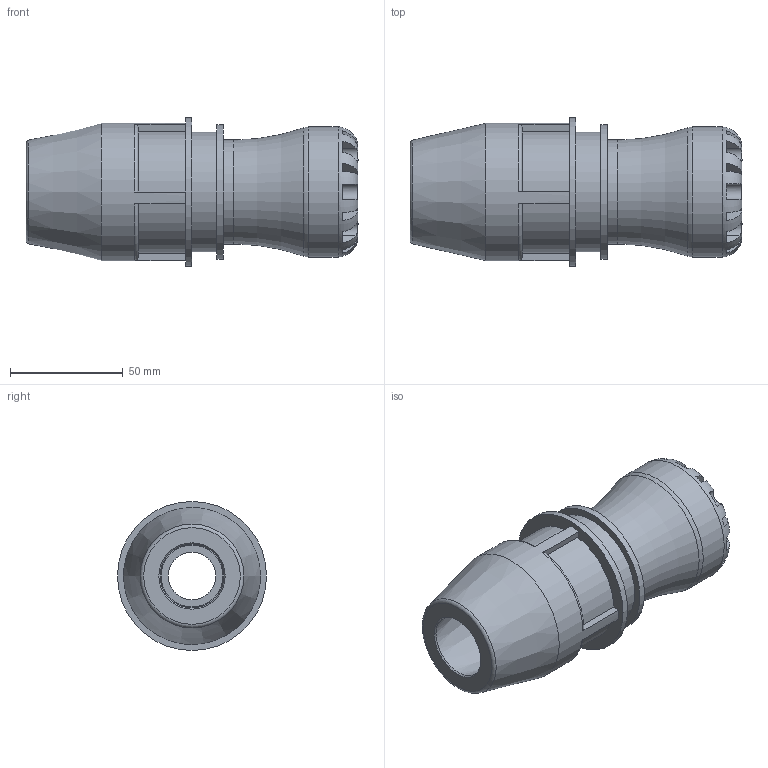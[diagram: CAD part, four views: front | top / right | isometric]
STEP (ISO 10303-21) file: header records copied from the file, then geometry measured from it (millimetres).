
FILE_DESCRIPTION(/* description */ ('PLASSON UNIVERSAL COUPLING 24-28X32 SERIES 1'),/* implementation_level */ '2;1');
FILE_NAME(/* name */ 'C:\Dropbox\KIMPROJECTS-Inventor 2019\99-16-3568-Processing\S1\10017\stp\100170032028.stp',/* time_stamp */ '2023-08-31T10:33:45+03:00',/* author */ ('KIM'),/* organization */ (''),/* preprocessor_version */ 'ST-DEVELOPER v17.2',/* originating_system */ 'Autodesk Inventor 2019',/* authorisation */ '');
FILE_SCHEMA (('AUTOMOTIVE_DESIGN { 1 0 10303 214 3 1 1 }'));
Length unit declared in the file: millimetre
Products named in the file (1): 100170032028
Bounding box: 147 x 66 x 66 mm (x, y, z)
Volume: 225446.2 mm3; surface area: 49614.7 mm2
Topology: 1 solids, 1 shells, 110 faces, 296 edges, 195 vertices
Faces by surface type: plane 69, cylinder 29, torus 8, cone 4
Full cylindrical faces by diameter (mm): 21.04 x1, 27.44 x1, 32 x1, 46.08 x1, 52.8 x1, 57.6 x1, 59.4 x1, 60.72 x1, 66 x1
Entity records: 4094 total; most frequent: CARTESIAN_POINT 1244, DIRECTION 609, ORIENTED_EDGE 592, EDGE_CURVE 296, AXIS2_PLACEMENT_3D 250, VERTEX_POINT 195, CIRCLE 139, EDGE_LOOP 119
